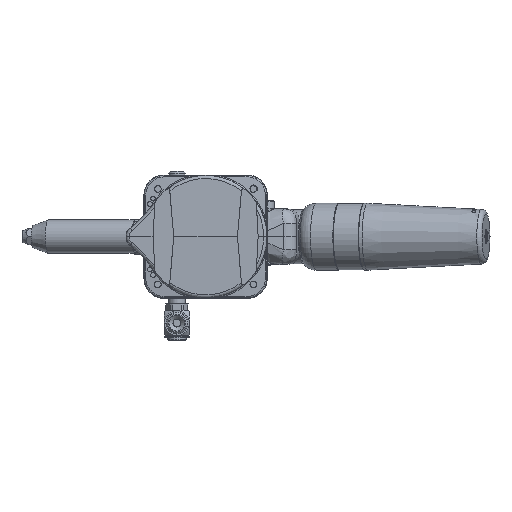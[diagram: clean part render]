
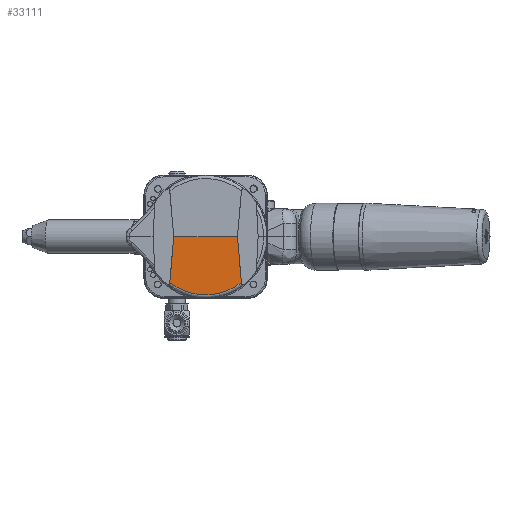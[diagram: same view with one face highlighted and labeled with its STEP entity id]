
A CAD part, front view. The second image highlights one B-rep face of the part: STEP entity #33111.
In plain terms, the highlighted planar face has unit normal (0, -1, -0.018).
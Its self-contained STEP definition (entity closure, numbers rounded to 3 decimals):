
#400 = CARTESIAN_POINT ( 'NONE',  ( -777.676, 55.166, -8660.281 ) ) ;
#426 = CARTESIAN_POINT ( 'NONE',  ( 777.676, 55.166, -8660.281 ) ) ;
#1977 = VERTEX_POINT ( 'NONE', #3867 ) ;
#2853 = ORIENTED_EDGE ( 'NONE', *, *, #26986, .T. ) ;
#2939 = VECTOR ( 'NONE', #22380, 1000. ) ;
#3030 = EDGE_CURVE ( 'NONE', #12198, #1977, #28438, .T. ) ;
#3426 = CARTESIAN_POINT ( 'NONE',  ( 22.516, -95.498, -28.762 ) ) ;
#3474 = CARTESIAN_POINT ( 'NONE',  ( 8.747, -95.31, -39.554 ) ) ;
#3568 = CARTESIAN_POINT ( 'NONE',  ( -22.516, -95.498, -28.762 ) ) ;
#3620 = CARTESIAN_POINT ( 'NONE',  ( -8.747, -95.31, -39.554 ) ) ;
#3726 = DIRECTION ( 'NONE',  ( -0.087, -0.017, 0.996 ) ) ;
#3867 = CARTESIAN_POINT ( 'NONE',  ( 22.516, -95.498, -28.762 ) ) ;
#5398 = LINE ( 'NONE', #426, #21601 ) ;
#9780 = ORIENTED_EDGE ( 'NONE', *, *, #40251, .T. ) ;
#12198 = VERTEX_POINT ( 'NONE', #29624 ) ;
#12244 = DIRECTION ( 'NONE',  ( 0., -1., -0.017 ) ) ;
#12600 = ORIENTED_EDGE ( 'NONE', *, *, #15761, .T. ) ;
#13479 = VERTEX_POINT ( 'NONE', #32717 ) ;
#14708 = LINE ( 'NONE', #400, #39455 ) ;
#15761 = EDGE_CURVE ( 'NONE', #13479, #17971, #27666, .T. ) ;
#17971 = VERTEX_POINT ( 'NONE', #39341 ) ;
#21601 = VECTOR ( 'NONE', #3726, 1000. ) ;
#22380 = DIRECTION ( 'NONE',  ( -1., 0., 0. ) ) ;
#22736 = FACE_OUTER_BOUND ( 'NONE', #40505, .T. ) ;
#24804 = PLANE ( 'NONE',  #27148 ) ;
#26986 = EDGE_CURVE ( 'NONE', #1977, #13479, #5398, .T. ) ;
#27148 = AXIS2_PLACEMENT_3D ( 'NONE', #31533, #12244, #34789 ) ;
#27666 = LINE ( 'NONE', #41682, #2939 ) ;
#28438 =( BOUNDED_CURVE ( )  B_SPLINE_CURVE ( 3, ( #3568, #3620, #3474, #3426 ),
 .UNSPECIFIED., .F., .T. ) 
 B_SPLINE_CURVE_WITH_KNOTS ( ( 4, 4 ),
 ( 2.477, 3.806 ),
 .UNSPECIFIED. ) 
 CURVE ( )  GEOMETRIC_REPRESENTATION_ITEM ( )  RATIONAL_B_SPLINE_CURVE ( ( 1., 0.858, 0.858, 1. ) ) 
 REPRESENTATION_ITEM ( '' )  );
#29624 = CARTESIAN_POINT ( 'NONE',  ( -22.516, -95.498, -28.762 ) ) ;
#31533 = CARTESIAN_POINT ( 'NONE',  ( 259.234, -96., 0. ) ) ;
#32717 = CARTESIAN_POINT ( 'NONE',  ( 20., -96., 0. ) ) ;
#32900 = DIRECTION ( 'NONE',  ( -0.087, 0.017, -0.996 ) ) ;
#33111 = ADVANCED_FACE ( 'NONE', ( #22736 ), #24804, .T. ) ;
#33833 = ORIENTED_EDGE ( 'NONE', *, *, #3030, .T. ) ;
#34789 = DIRECTION ( 'NONE',  ( 0., 0.017, -1. ) ) ;
#39341 = CARTESIAN_POINT ( 'NONE',  ( -20., -96., 0. ) ) ;
#39455 = VECTOR ( 'NONE', #32900, 1000. ) ;
#40251 = EDGE_CURVE ( 'NONE', #17971, #12198, #14708, .T. ) ;
#40505 = EDGE_LOOP ( 'NONE', ( #9780, #33833, #2853, #12600 ) ) ;
#41682 = CARTESIAN_POINT ( 'NONE',  ( 259.234, -96., 0. ) ) ;
